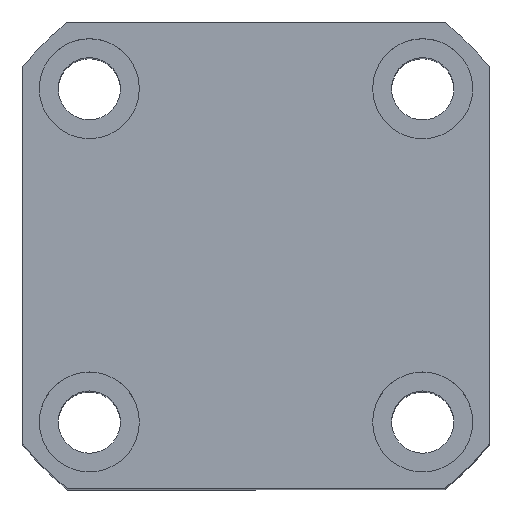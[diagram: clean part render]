
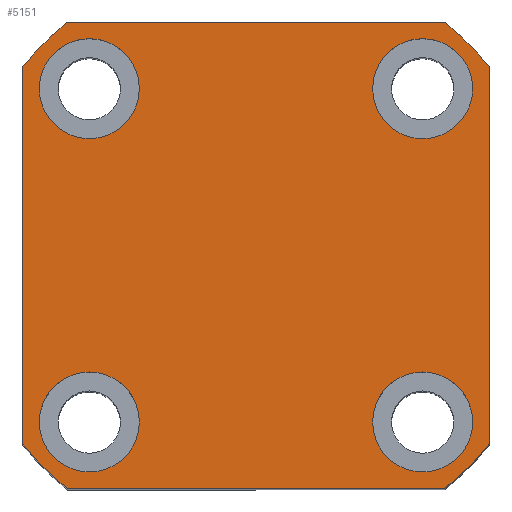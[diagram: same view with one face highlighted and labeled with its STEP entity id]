
A CAD part, top view. The second image highlights one B-rep face of the part: STEP entity #5151.
In plain terms, the highlighted planar face has unit normal (0, 0, 1).
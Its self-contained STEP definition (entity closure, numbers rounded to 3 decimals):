
#2531=LINE('',#15251,#3277);
#2536=LINE('',#15893,#3282);
#2540=LINE('',#15902,#3286);
#2544=LINE('',#15911,#3290);
#3277=VECTOR('',#11026,1.);
#3282=VECTOR('',#11153,1.);
#3286=VECTOR('',#11159,1.);
#3290=VECTOR('',#11165,1.);
#4123=PLANE('',#10620);
#5151=ADVANCED_FACE('',(#5639,#5640,#5641,#5642,#5643),#4123,.T.);
#5639=FACE_BOUND('',#5847,.T.);
#5640=FACE_BOUND('',#5848,.T.);
#5641=FACE_BOUND('',#5849,.T.);
#5642=FACE_BOUND('',#5850,.T.);
#5643=FACE_BOUND('',#5851,.T.);
#5847=EDGE_LOOP('',(#6493));
#5848=EDGE_LOOP('',(#6494));
#5849=EDGE_LOOP('',(#6495));
#5850=EDGE_LOOP('',(#6496));
#5851=EDGE_LOOP('',(#6497,#6498,#6499,#6500,#6501,#6502,#6503,#6504));
#6493=ORIENTED_EDGE('',*,*,#9380,.F.);
#6494=ORIENTED_EDGE('',*,*,#9382,.F.);
#6495=ORIENTED_EDGE('',*,*,#9384,.F.);
#6496=ORIENTED_EDGE('',*,*,#9386,.F.);
#6497=ORIENTED_EDGE('',*,*,#9439,.T.);
#6498=ORIENTED_EDGE('',*,*,#9450,.T.);
#6499=ORIENTED_EDGE('',*,*,#9443,.T.);
#6500=ORIENTED_EDGE('',*,*,#9451,.T.);
#6501=ORIENTED_EDGE('',*,*,#9354,.T.);
#6502=ORIENTED_EDGE('',*,*,#9452,.T.);
#6503=ORIENTED_EDGE('',*,*,#9447,.T.);
#6504=ORIENTED_EDGE('',*,*,#9453,.T.);
#8565=VERTEX_POINT('',#15249);
#8567=VERTEX_POINT('',#15252);
#8591=VERTEX_POINT('',#15435);
#8593=VERTEX_POINT('',#15440);
#8595=VERTEX_POINT('',#15445);
#8597=VERTEX_POINT('',#15450);
#8649=VERTEX_POINT('',#15891);
#8651=VERTEX_POINT('',#15894);
#8653=VERTEX_POINT('',#15900);
#8655=VERTEX_POINT('',#15903);
#8657=VERTEX_POINT('',#15909);
#8659=VERTEX_POINT('',#15912);
#9354=EDGE_CURVE('',#8567,#8565,#2531,.T.);
#9380=EDGE_CURVE('',#8591,#8591,#10456,.T.);
#9382=EDGE_CURVE('',#8593,#8593,#10458,.T.);
#9384=EDGE_CURVE('',#8595,#8595,#10460,.T.);
#9386=EDGE_CURVE('',#8597,#8597,#10462,.T.);
#9439=EDGE_CURVE('',#8651,#8649,#2536,.T.);
#9443=EDGE_CURVE('',#8655,#8653,#2540,.T.);
#9447=EDGE_CURVE('',#8659,#8657,#2544,.T.);
#9450=EDGE_CURVE('',#8649,#8655,#10474,.T.);
#9451=EDGE_CURVE('',#8653,#8567,#10475,.T.);
#9452=EDGE_CURVE('',#8565,#8659,#10476,.T.);
#9453=EDGE_CURVE('',#8657,#8651,#10477,.T.);
#10456=CIRCLE('',#10586,4.5);
#10458=CIRCLE('',#10589,4.5);
#10460=CIRCLE('',#10592,4.5);
#10462=CIRCLE('',#10595,4.5);
#10474=CIRCLE('',#10616,27.);
#10475=CIRCLE('',#10617,27.);
#10476=CIRCLE('',#10618,27.);
#10477=CIRCLE('',#10619,27.);
#10586=AXIS2_PLACEMENT_3D('',#15434,#11097,#11098);
#10589=AXIS2_PLACEMENT_3D('',#15439,#11103,#11104);
#10592=AXIS2_PLACEMENT_3D('',#15444,#11109,#11110);
#10595=AXIS2_PLACEMENT_3D('',#15449,#11115,#11116);
#10616=AXIS2_PLACEMENT_3D('',#15917,#11170,#11171);
#10617=AXIS2_PLACEMENT_3D('',#15918,#11172,#11173);
#10618=AXIS2_PLACEMENT_3D('',#15919,#11174,#11175);
#10619=AXIS2_PLACEMENT_3D('',#15920,#11176,#11177);
#10620=AXIS2_PLACEMENT_3D('',#15921,#11178,#11179);
#11026=DIRECTION('',(0.,-1.,0.));
#11097=DIRECTION('',(0.,0.,1.));
#11098=DIRECTION('',(1.,0.,0.));
#11103=DIRECTION('',(0.,0.,1.));
#11104=DIRECTION('',(1.,0.,0.));
#11109=DIRECTION('',(0.,0.,1.));
#11110=DIRECTION('',(1.,0.,0.));
#11115=DIRECTION('',(0.,0.,1.));
#11116=DIRECTION('',(1.,0.,0.));
#11153=DIRECTION('',(0.,1.,0.));
#11159=DIRECTION('',(-1.,0.,0.));
#11165=DIRECTION('',(1.,0.,0.));
#11170=DIRECTION('',(0.,0.,1.));
#11171=DIRECTION('',(1.,0.,0.));
#11172=DIRECTION('',(0.,0.,1.));
#11173=DIRECTION('',(1.,0.,0.));
#11174=DIRECTION('',(0.,0.,1.));
#11175=DIRECTION('',(1.,0.,0.));
#11176=DIRECTION('',(0.,0.,1.));
#11177=DIRECTION('',(1.,0.,0.));
#11178=DIRECTION('',(0.,0.,1.));
#11179=DIRECTION('',(-1.,0.,0.));
#15249=CARTESIAN_POINT('',(-103.756,4.745,63.189));
#15251=CARTESIAN_POINT('',(-103.756,42.715,63.189));
#15252=CARTESIAN_POINT('',(-103.756,38.686,63.189));
#15434=CARTESIAN_POINT('',(-97.756,36.717,63.189));
#15435=CARTESIAN_POINT('',(-93.256,36.717,63.189));
#15439=CARTESIAN_POINT('',(-97.756,6.717,63.189));
#15440=CARTESIAN_POINT('',(-93.256,6.717,63.189));
#15444=CARTESIAN_POINT('',(-67.756,6.717,63.189));
#15445=CARTESIAN_POINT('',(-63.256,6.717,63.189));
#15449=CARTESIAN_POINT('',(-67.756,36.715,63.189));
#15450=CARTESIAN_POINT('',(-63.256,36.715,63.189));
#15891=CARTESIAN_POINT('',(-61.756,38.686,63.189));
#15893=CARTESIAN_POINT('',(-61.756,42.715,63.189));
#15894=CARTESIAN_POINT('',(-61.756,4.745,63.189));
#15900=CARTESIAN_POINT('',(-99.727,42.715,63.189));
#15902=CARTESIAN_POINT('',(-103.756,42.715,63.189));
#15903=CARTESIAN_POINT('',(-65.785,42.715,63.189));
#15909=CARTESIAN_POINT('',(-65.785,0.715,63.189));
#15911=CARTESIAN_POINT('',(-103.756,0.715,63.189));
#15912=CARTESIAN_POINT('',(-99.727,0.715,63.189));
#15917=CARTESIAN_POINT('',(-82.756,21.715,63.189));
#15918=CARTESIAN_POINT('',(-82.756,21.715,63.189));
#15919=CARTESIAN_POINT('',(-82.756,21.715,63.189));
#15920=CARTESIAN_POINT('',(-82.756,21.715,63.189));
#15921=CARTESIAN_POINT('',(-82.756,21.715,63.189));
